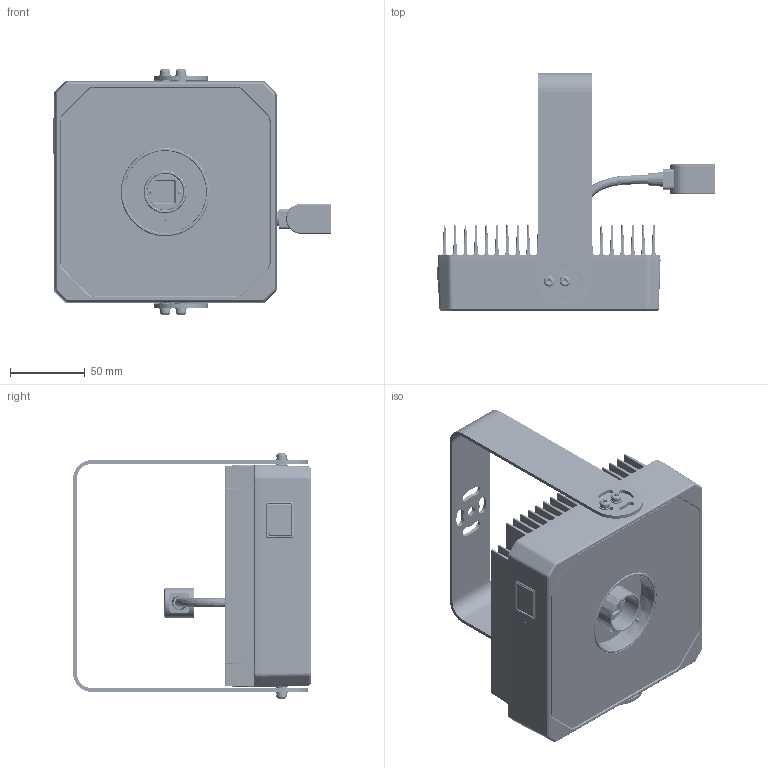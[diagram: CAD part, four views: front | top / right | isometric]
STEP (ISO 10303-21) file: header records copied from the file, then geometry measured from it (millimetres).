
FILE_DESCRIPTION((''),'2;1');
FILE_NAME('1200W0002_ASM','2023-03-14T10:42:54',('guotianbo'),(''),'CREO PARAMETRIC BY PTC INC, 2020044','CREO PARAMETRIC BY PTC INC, 2020044','');
FILE_SCHEMA(('CONFIG_CONTROL_DESIGN'));
Products named in the file (55): DE-12-000092; DE-12-000112_ALLCATPART_; DE13-000904; PCB-SENSOR-V2__RNM; 101107317; 101300388; 101301606; 101304972; 12MPSENSOR; MV-20372_ASM; SC-PA3X8B-JMP_; PCB-PATCH__; 101300258__RNM; 101301606__RNM; CHATOU1; MV-23341_ASM; SC-PA2X6-JMP; D-01-32-26-0685_; PRT0001; DE-13-000831-05-24; DE-19-000071_; PRT0002; DE-19-003440; D-01-37-26-0007; D-01-35-26-0007; SC-K1A3X12-BNI_; DE-12-002185; DE11-004363; SC-PSFM4X10-SUS-GB9074_8; DE-14-014204; SC_T1M2X3B; MV-20372_1201-2015REV10-2022120; PCB-LED-V3_1__; GW_PUSRA1PM_20170929_GEOMETRY_1; 101300365_; 101301863_; MV-25115_ASM; MV-23341REV10_1205-1952; 0001; 191400326_19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
Assembly tree (100 placements, depth 3):
  1200W0002_ASM
    DE-12-000092
    DE-12-000112_ALLCATPART_
    DE13-000904
    MV-20372_ASM
      PCB-SENSOR-V2__RNM
      101107317
      101300388
      101301606  x2
      101304972
      12MPSENSOR
    SC-PA3X8B-JMP_  x11
    MV-23341_ASM
      PCB-PATCH__
      101300258__RNM
      101301606__RNM
      CHATOU1
    SC-PA2X6-JMP  x3
    D-01-32-26-0685_
    PRT0001
    DE-13-000831-05-24
    DE-19-000071_
    PRT0002
    DE-19-003440
    D-01-37-26-0007
    D-01-35-26-0007
    SC-K1A3X12-BNI_  x4
    DE-12-002185
    DE11-004363
    SC-PSFM4X10-SUS-GB9074_8  x3
    DE-14-014204  x2
    SC_T1M2X3B  x2
    MV-20372_1201-2015REV10-2022120
    MV-25115_ASM
      PCB-LED-V3_1__
      GW_PUSRA1PM_20170929_GEOMETRY_1  x24
      101300365_
      101301863_
    MV-23341REV10_1205-1952
    0001  x2
    191400326_19  x2
    PRT0007
    PRT0008
    PRT0009  x2
    PRT0010
    PRT0011
    PRT0012
    PRT0013
    0002
    PRT0014
    0003
    PRT0015
    _25_5_50001
    0004
    PRT0016
Bounding box: 186.03 x 159.1 x 164.2 mm (x, y, z)
Volume: 541195.2 mm3; surface area: 458153.5 mm2
Topology: 1125 solids, 1195 shells, 30437 faces, 77980 edges, 50693 vertices
Faces by surface type: plane 22283, cylinder 6177, sphere 572, cone 524, bspline 469, torus 342, revolution 52, extrusion 18
Entity records: 805136 total; most frequent: CARTESIAN_POINT 173038, ORIENTED_EDGE 131784, DIRECTION 125447, EDGE_CURVE 66079, VECTOR 52593, LINE 52575, VERTEX_POINT 43299, AXIS2_PLACEMENT_3D 36401
